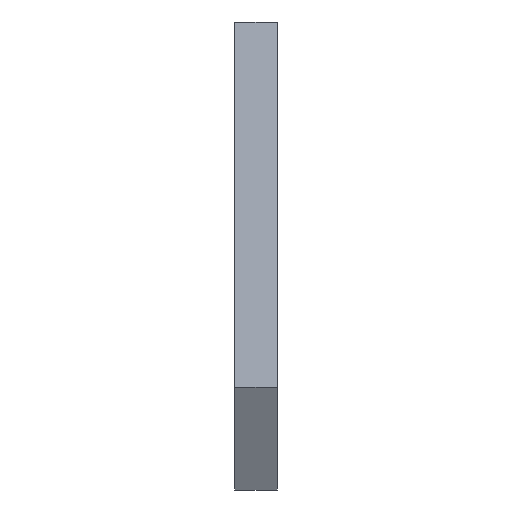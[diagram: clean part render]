
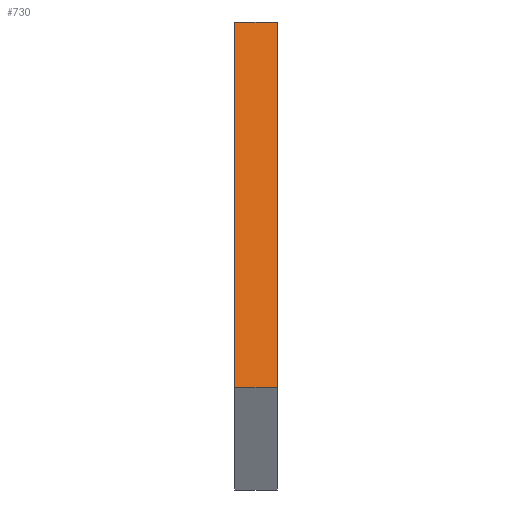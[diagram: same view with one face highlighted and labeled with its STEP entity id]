
A CAD part, front view. The second image highlights one B-rep face of the part: STEP entity #730.
In plain terms, the highlighted planar face has unit normal (0, -0.985, 0.174).
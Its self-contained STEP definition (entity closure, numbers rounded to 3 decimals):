
#37=CARTESIAN_POINT('',(-76.5,-529.232,307.871));
#38=VERTEX_POINT('',#37);
#45=CARTESIAN_POINT('',(-101.5,-529.232,307.871));
#46=VERTEX_POINT('',#45);
#47=CARTESIAN_POINT('',(-101.5,-529.232,307.871));
#48=DIRECTION('',(1.0,0.0,0.0));
#49=VECTOR('',#48,1.);
#50=LINE('',#47,#49);
#51=EDGE_CURVE('',#46,#38,#50,.T.);
#75=CARTESIAN_POINT('',(-76.5,-491.029,524.529));
#76=VERTEX_POINT('',#75);
#83=CARTESIAN_POINT('',(-76.5,-529.232,307.871));
#84=DIRECTION('',(0.,0.174,0.985));
#85=VECTOR('',#84,1.);
#86=LINE('',#83,#85);
#87=EDGE_CURVE('',#38,#76,#86,.T.);
#414=CARTESIAN_POINT('',(-101.5,-491.029,524.529));
#415=VERTEX_POINT('',#414);
#422=CARTESIAN_POINT('',(-76.5,-491.029,524.529));
#423=DIRECTION('',(-1.0,0.,0.));
#424=VECTOR('',#423,1.);
#425=LINE('',#422,#424);
#426=EDGE_CURVE('',#76,#415,#425,.T.);
#466=CARTESIAN_POINT('',(-101.5,-491.029,524.529));
#467=DIRECTION('',(0.,-0.174,-0.985));
#468=VECTOR('',#467,1.);
#469=LINE('',#466,#468);
#470=EDGE_CURVE('',#415,#46,#469,.T.);
#719=CARTESIAN_POINT('',(-101.5,-529.232,307.871));
#720=DIRECTION('',(0.0,-0.985,0.174));
#721=DIRECTION('',(1.0,0.0,0.0));
#722=AXIS2_PLACEMENT_3D('',#719,#720,#721);
#723=PLANE('',#722);
#724=ORIENTED_EDGE('',*,*,#51,.T.);
#725=ORIENTED_EDGE('',*,*,#87,.T.);
#726=ORIENTED_EDGE('',*,*,#426,.T.);
#727=ORIENTED_EDGE('',*,*,#470,.T.);
#728=EDGE_LOOP('',(#724,#725,#726,#727));
#729=FACE_BOUND('',#728,.T.);
#730=ADVANCED_FACE('',(#729),#723,.T.);
